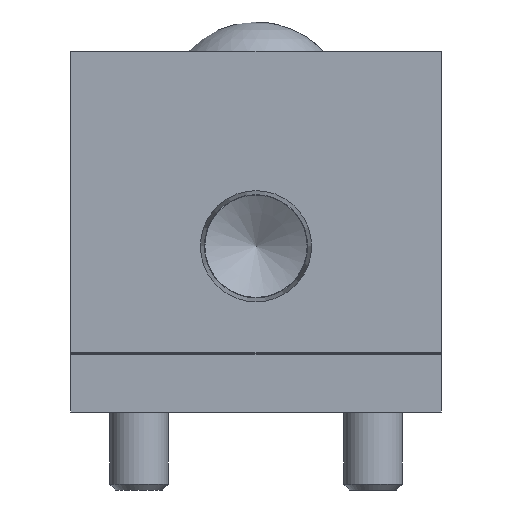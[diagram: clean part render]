
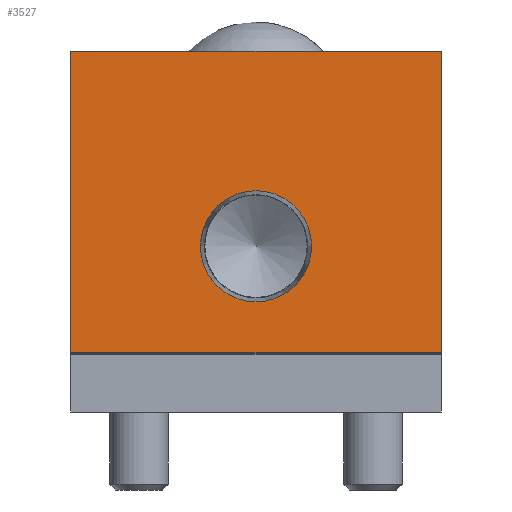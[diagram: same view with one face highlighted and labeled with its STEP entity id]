
A CAD part, front view. The second image highlights one B-rep face of the part: STEP entity #3527.
In plain terms, the highlighted planar face has unit normal (0, -1, 0).
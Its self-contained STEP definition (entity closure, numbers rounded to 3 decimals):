
#303=FACE_BOUND('',#806,.T.);
#392=CIRCLE('',#3728,5.704);
#548=FACE_OUTER_BOUND('',#805,.T.);
#805=EDGE_LOOP('',(#2534,#2535,#2536,#2537));
#806=EDGE_LOOP('',(#2538));
#1089=LINE('',#5138,#1347);
#1092=LINE('',#5143,#1350);
#1094=LINE('',#5151,#1352);
#1114=LINE('',#5200,#1372);
#1347=VECTOR('',#4131,30.9);
#1350=VECTOR('',#4136,38.);
#1352=VECTOR('',#4144,30.9);
#1372=VECTOR('',#4196,38.);
#1598=VERTEX_POINT('',#5135);
#1599=VERTEX_POINT('',#5137);
#1600=VERTEX_POINT('',#5141);
#1603=VERTEX_POINT('',#5149);
#1607=VERTEX_POINT('',#5163);
#1910=EDGE_CURVE('',#1599,#1598,#1089,.T.);
#1913=EDGE_CURVE('',#1598,#1600,#1092,.T.);
#1917=EDGE_CURVE('',#1603,#1600,#1094,.T.);
#1922=EDGE_CURVE('',#1607,#1607,#392,.T.);
#1941=EDGE_CURVE('',#1603,#1599,#1114,.T.);
#2534=ORIENTED_EDGE('',*,*,#1941,.T.);
#2535=ORIENTED_EDGE('',*,*,#1910,.T.);
#2536=ORIENTED_EDGE('',*,*,#1913,.T.);
#2537=ORIENTED_EDGE('',*,*,#1917,.F.);
#2538=ORIENTED_EDGE('',*,*,#1922,.T.);
#3195=PLANE('',#3790);
#3527=ADVANCED_FACE('',(#548,#303),#3195,.T.);
#3728=AXIS2_PLACEMENT_3D('',#5164,#4159,#4160);
#3790=AXIS2_PLACEMENT_3D('',#5362,#4334,#4335);
#4131=DIRECTION('',(0.,0.,1.));
#4136=DIRECTION('',(-1.,0.,0.));
#4144=DIRECTION('',(0.,0.,1.));
#4159=DIRECTION('center_axis',(0.,1.,0.));
#4160=DIRECTION('ref_axis',(1.,0.,0.));
#4196=DIRECTION('',(1.,0.,0.));
#4334=DIRECTION('center_axis',(0.,-1.,0.));
#4335=DIRECTION('ref_axis',(0.,0.,-1.));
#5135=CARTESIAN_POINT('',(19.,0.,37.));
#5137=CARTESIAN_POINT('',(19.,0.,6.1));
#5138=CARTESIAN_POINT('',(19.,0.,0.));
#5141=CARTESIAN_POINT('',(-19.,0.,37.));
#5143=CARTESIAN_POINT('',(19.,0.,37.));
#5149=CARTESIAN_POINT('',(-19.,0.,6.1));
#5151=CARTESIAN_POINT('',(-19.,0.,0.));
#5163=CARTESIAN_POINT('',(5.704,0.,17.));
#5164=CARTESIAN_POINT('Origin',(0.,0.,17.));
#5200=CARTESIAN_POINT('',(19.,0.,6.1));
#5362=CARTESIAN_POINT('Origin',(19.,0.,0.));
